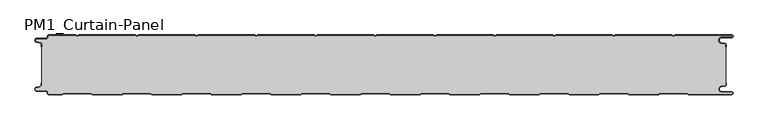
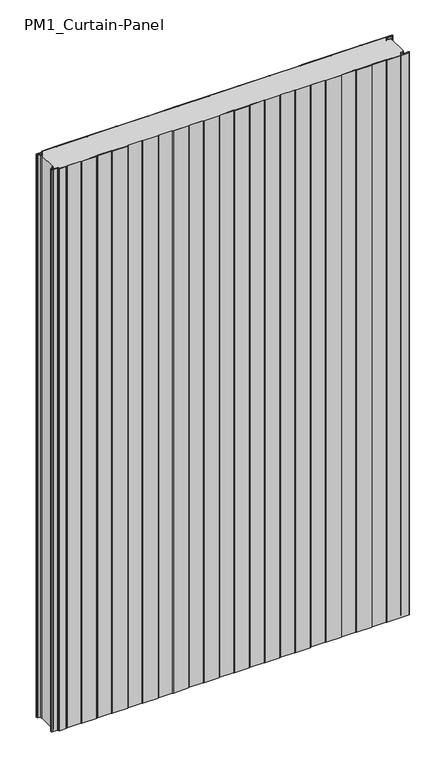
"""IFC4 building model written with IfcOpenShell, lengths in millimetres: plate geometry, PM1_Curtain-Panel : ACH_PM1_Stone-wool-Panel_100M."""

from ifc_helpers import new_model, si_unit, point, frame_2d, origin, origin_with_axes, place, context, project, spatial, polyline, circle_curve, trimmed, segment, composite_curve, outline, extrude, source, transform, mapped, element, save


def pm1_curtain_panel_f8caf6f3(model_context):
    return source(origin(), model_context, "Body", "SweptSolid", [
        extrude(outline(composite_curve([segment(trimmed(circle_curve(frame_2d((-577.0, -15.878557)), 2.0), [point((-575.0, -15.878557))], [point((-576.5500978, -13.9298169))], True, "CARTESIAN"), True, "CONTINUOUS"), segment(polyline([(-576.5500978, -13.9298169), (-582.7098239, -12.507732)]), True, "CONTINUOUS"), segment(trimmed(circle_curve(frame_2d((-581.9, -9.0)), 3.6), [point((-582.7098239, -12.507732))], [point((-581.9, -5.4))], False, "CARTESIAN"), True, "CONTINUOUS"), segment(polyline([(-581.9, -5.4), (-566.4, -5.4)]), True, "CONTINUOUS"), segment(trimmed(circle_curve(frame_2d((-566.4, -3.4)), 2.0), [point((-566.4, -5.4))], [point((-564.4, -3.4))], True, "CARTESIAN"), True, "CONTINUOUS"), segment(polyline([(-564.4, -3.4), (-564.4, -2.0)]), True, "CONTINUOUS"), segment(trimmed(circle_curve(frame_2d((-562.4, -2.0)), 2.0), [point((-564.4, -2.0))], [point((-562.4, 0.0))], False, "CARTESIAN"), True, "CONTINUOUS"), segment(polyline([(-562.4, 0.0), (-517.0999995, 0.0), (-514.4, -1.5588455), (-511.7000005, 0.0), (-417.0999995, 0.0), (-414.4, -1.5588455), (-411.7000005, 0.0), (-317.0999995, 0.0), (-314.4, -1.5588455), (-311.7000005, 0.0), (-217.0999995, 0.0), (-214.4, -1.5588455), (-211.7000005, 0.0), (-117.0999995, 0.0), (-114.4, -1.5588455), (-111.7000005, 0.0), (-17.0999995, 0.0), (-14.4, -1.5588455), (-11.7000005, 0.0), (82.9000005, 0.0), (85.6, -1.5588455), (88.2999995, 0.0), (182.9000005, 0.0), (185.6, -1.5588455), (188.2999995, 0.0), (282.9000005, 0.0), (285.6, -1.5588455), (288.2999995, 0.0), (382.9000005, 0.0), (385.6, -1.5588455), (388.2999995, 0.0), (482.9000005, 0.0), (485.6, -1.5588455), (488.2999995, 0.0), (583.1, 0.0)]), True, "CONTINUOUS"), segment(trimmed(circle_curve(frame_2d((583.1, -2.5)), 2.5), [point((583.1, 0.0))], [point((583.1, -5.0))], False, "CARTESIAN"), True, "CONTINUOUS"), segment(polyline([(583.1, -5.0), (566.1, -5.0)]), True, "CONTINUOUS"), segment(trimmed(circle_curve(frame_2d((566.1, -9.0)), 4.0), [point((566.1, -5.0))], [point((565.405407, -12.939231))], True, "CARTESIAN"), True, "CONTINUOUS"), segment(polyline([(565.405407, -12.939231), (571.8514855, -14.0758491)]), True, "CONTINUOUS"), segment(trimmed(circle_curve(frame_2d((571.4, -16.6363492)), 2.6), [point((571.8514855, -14.0758491))], [point((574.0, -16.6363492))], False, "CARTESIAN"), True, "CONTINUOUS"), segment(polyline([(574.0, -16.6363492), (574.0, -20.0), (573.2, -20.0), (573.2, -16.6363492)]), True, "CONTINUOUS"), segment(trimmed(circle_curve(frame_2d((571.4, -16.6363492)), 1.8), [point((573.2, -16.6363492))], [point((571.7125669, -14.8636953))], True, "CARTESIAN"), True, "CONTINUOUS"), segment(polyline([(571.7125669, -14.8636953), (565.2664884, -13.7270772)]), True, "CONTINUOUS"), segment(trimmed(circle_curve(frame_2d((566.1, -9.0)), 4.8), [point((565.2664884, -13.7270772))], [point((566.1, -4.2))], False, "CARTESIAN"), True, "CONTINUOUS"), segment(polyline([(566.1, -4.2), (583.1, -4.2)]), True, "CONTINUOUS"), segment(trimmed(circle_curve(frame_2d((583.1, -2.5)), 1.7), [point((583.1, -4.2))], [point((583.1, -0.8))], True, "CARTESIAN"), True, "CONTINUOUS"), segment(polyline([(583.1, -0.8), (488.5143588, -0.8), (485.6, -2.482606), (482.6856412, -0.8), (388.5143588, -0.8), (385.6, -2.482606), (382.6856412, -0.8), (288.5143588, -0.8), (285.6, -2.482606), (282.6856412, -0.8), (188.5143588, -0.8), (185.6, -2.482606), (182.6856412, -0.8), (88.5143588, -0.8), (85.6, -2.482606), (82.6856412, -0.8), (-11.4856412, -0.8), (-14.4, -2.482606), (-17.3143588, -0.8), (-111.4856412, -0.8), (-114.4, -2.482606), (-117.3143588, -0.8), (-211.4856412, -0.8), (-214.4, -2.482606), (-217.3143588, -0.8), (-311.4856412, -0.8), (-314.4, -2.482606), (-317.3143588, -0.8), (-411.4856412, -0.8), (-414.4, -2.482606), (-417.3143588, -0.8), (-511.4856412, -0.8), (-514.4, -2.482606), (-517.3143588, -0.8), (-562.4, -0.8)]), True, "CONTINUOUS"), segment(trimmed(circle_curve(frame_2d((-562.4, -2.0)), 1.2), [point((-562.4, -0.8))], [point((-563.6, -2.0))], True, "CARTESIAN"), True, "CONTINUOUS"), segment(polyline([(-563.6, -2.0), (-563.6, -3.4)]), True, "CONTINUOUS"), segment(trimmed(circle_curve(frame_2d((-566.4, -3.4)), 2.8), [point((-563.6, -3.4))], [point((-566.4, -6.2))], False, "CARTESIAN"), True, "CONTINUOUS"), segment(polyline([(-566.4, -6.2), (-581.9, -6.2)]), True, "CONTINUOUS"), segment(trimmed(circle_curve(frame_2d((-581.9, -9.0)), 2.8), [point((-581.9, -6.2))], [point((-582.529863, -11.7282362))], True, "CARTESIAN"), True, "CONTINUOUS"), segment(polyline([(-582.529863, -11.7282362), (-576.370137, -13.150321)]), True, "CONTINUOUS"), segment(trimmed(circle_curve(frame_2d((-577.0, -15.878557)), 2.8), [point((-576.370137, -13.150321))], [point((-574.2, -15.878557))], False, "CARTESIAN"), True, "CONTINUOUS"), segment(polyline([(-574.2, -15.878557), (-574.2, -20.0), (-575.0, -20.0), (-575.0, -15.878557)]), True, "CONTINUOUS")], self_intersect=False)), origin_with_axes(), (0.0, 0.0, 1.0), 1945.7507136),
        extrude(outline(composite_curve([segment(polyline([(-574.2, -84.121443), (-574.2, -15.8785573)]), True, "CONTINUOUS"), segment(trimmed(circle_curve(frame_2d((-577.0, -15.8785573)), 2.8), [point((-574.2, -15.8785573))], [point((-576.370137, -13.1503212))], True, "CARTESIAN"), True, "CONTINUOUS"), segment(polyline([(-576.370137, -13.1503212), (-582.5298631, -11.7282362)]), True, "CONTINUOUS"), segment(trimmed(circle_curve(frame_2d((-581.9, -9.0)), 2.8), [point((-582.5298631, -11.7282362))], [point((-581.9, -6.2))], False, "CARTESIAN"), True, "CONTINUOUS"), segment(polyline([(-581.9, -6.2), (-566.4000001, -6.2)]), True, "CONTINUOUS"), segment(trimmed(circle_curve(frame_2d((-566.4000001, -3.4)), 2.8), [point((-566.4000001, -6.2))], [point((-563.6000001, -3.4))], True, "CARTESIAN"), True, "CONTINUOUS"), segment(polyline([(-563.6000001, -3.4), (-563.6000001, -2.0)]), True, "CONTINUOUS"), segment(trimmed(circle_curve(frame_2d((-562.4000001, -2.0)), 1.2), [point((-563.6000001, -2.0))], [point((-562.4000001, -0.8))], False, "CARTESIAN"), True, "CONTINUOUS"), segment(polyline([(-562.4000001, -0.8), (-517.3143589, -0.8), (-514.4000001, -2.482606), (-511.4856412, -0.8), (-417.3143589, -0.8), (-414.4000001, -2.482606), (-411.4856412, -0.8), (-317.3143589, -0.8), (-314.4000001, -2.482606), (-311.4856412, -0.8), (-217.3143589, -0.8), (-214.4000001, -2.482606), (-211.4856412, -0.8), (-117.3143589, -0.8), (-114.4000001, -2.482606), (-111.4856412, -0.8), (-17.3143589, -0.8), (-14.4000001, -2.482606), (-11.4856412, -0.8), (82.6856411, -0.8), (85.5999999, -2.482606), (88.5143588, -0.8), (182.6856411, -0.8), (185.5999999, -2.482606), (188.5143588, -0.8), (282.6856411, -0.8), (285.5999999, -2.482606), (288.5143588, -0.8), (382.6856411, -0.8), (385.5999999, -2.482606), (388.5143588, -0.8), (482.6856411, -0.8), (485.6, -2.482606), (488.5143588, -0.8), (583.1, -0.8)]), True, "CONTINUOUS"), segment(trimmed(circle_curve(frame_2d((583.1, -2.5)), 1.7), [point((583.1, -0.8))], [point((583.1, -4.2))], False, "CARTESIAN"), True, "CONTINUOUS"), segment(polyline([(583.1, -4.2), (566.1, -4.2)]), True, "CONTINUOUS"), segment(trimmed(circle_curve(frame_2d((566.1, -9.0)), 4.8), [point((566.1, -4.2))], [point((565.2664883, -13.7270771))], True, "CARTESIAN"), True, "CONTINUOUS"), segment(polyline([(565.2664883, -13.7270771), (571.7125668, -14.8636953)]), True, "CONTINUOUS"), segment(trimmed(circle_curve(frame_2d((571.4, -16.6363492)), 1.8), [point((571.7125668, -14.8636953))], [point((573.2, -16.6363492))], False, "CARTESIAN"), True, "CONTINUOUS"), segment(polyline([(573.2, -16.6363492), (573.2, -83.363652)]), True, "CONTINUOUS"), segment(trimmed(circle_curve(frame_2d((571.4, -83.363652)), 1.8), [point((573.2, -83.363652))], [point((571.7125666, -85.1363059))], False, "CARTESIAN"), True, "CONTINUOUS"), segment(polyline([(571.7125666, -85.1363059), (565.266489, -86.272923)]), True, "CONTINUOUS"), segment(trimmed(circle_curve(frame_2d((566.1, -91.0000002)), 4.7999999), [point((565.266489, -86.272923))], [point((566.1, -95.8000001))], True, "CARTESIAN"), True, "CONTINUOUS"), segment(polyline([(566.1, -95.8000001), (583.1, -95.8000001)]), True, "CONTINUOUS"), segment(trimmed(circle_curve(frame_2d((583.1, -97.5)), 1.7), [point((583.1, -95.8000001))], [point((583.1, -99.2))], False, "CARTESIAN"), True, "CONTINUOUS"), segment(polyline([(583.1, -99.2), (510.8105122, -99.2), (508.2124346, -97.7), (462.9837184, -97.7), (460.3856408, -99.2), (410.8105122, -99.2), (408.2124346, -97.7), (362.9837184, -97.7), (360.3856408, -99.2), (310.8105122, -99.2), (308.2124346, -97.7), (262.9837184, -97.7), (260.3856408, -99.2), (210.8105122, -99.2), (208.2124346, -97.7), (162.9837184, -97.7), (160.3856408, -99.2), (110.8105122, -99.2), (108.2124346, -97.7), (62.9837184, -97.7), (60.3856408, -99.2), (10.8105122, -99.2), (8.2124346, -97.7), (-37.0162816, -97.7), (-39.6143592, -99.2), (-89.1894878, -99.2), (-91.7875654, -97.7), (-137.0162816, -97.7), (-139.6143592, -99.2), (-189.1894878, -99.2), (-191.7875654, -97.7), (-237.0162816, -97.7), (-239.6143592, -99.2), (-289.1894878, -99.2), (-291.7875654, -97.7), (-337.0162816, -97.7), (-339.6143592, -99.2), (-389.1894878, -99.2), (-391.7875654, -97.7), (-437.0162816, -97.7), (-439.6143592, -99.2), (-489.1894878, -99.2), (-491.7875654, -97.7), (-537.0162816, -97.7), (-539.6143592, -99.2), (-562.4, -99.2)]), True, "CONTINUOUS"), segment(trimmed(circle_curve(frame_2d((-562.4, -98.0)), 1.2), [point((-562.4, -99.2))], [point((-563.6, -98.0))], False, "CARTESIAN"), True, "CONTINUOUS"), segment(polyline([(-563.6, -98.0), (-563.6, -96.5999998)]), True, "CONTINUOUS"), segment(trimmed(circle_curve(frame_2d((-566.4, -96.5999998)), 2.8), [point((-563.6, -96.5999998))], [point((-566.4, -93.7999998))], True, "CARTESIAN"), True, "CONTINUOUS"), segment(polyline([(-566.4, -93.7999998), (-581.9, -93.7999998)]), True, "CONTINUOUS"), segment(trimmed(circle_curve(frame_2d((-581.9, -91.0)), 2.7999998), [point((-581.9, -93.7999998))], [point((-582.529863, -88.271764))], False, "CARTESIAN"), True, "CONTINUOUS"), segment(polyline([(-582.529863, -88.271764), (-576.370137, -86.8496792)]), True, "CONTINUOUS"), segment(trimmed(circle_curve(frame_2d((-577.0, -84.121443)), 2.8), [point((-576.370137, -86.8496792))], [point((-574.2, -84.121443))], True, "CARTESIAN"), True, "CONTINUOUS")], self_intersect=False)), origin_with_axes(), (0.0, 0.0, 1.0), 1945.7507136),
        extrude(outline(composite_curve([segment(trimmed(circle_curve(frame_2d((-562.4, -98.0)), 2.0), [point((-562.4, -100.0))], [point((-564.4, -98.0))], False, "CARTESIAN"), True, "CONTINUOUS"), segment(polyline([(-564.4, -98.0), (-564.4, -96.6)]), True, "CONTINUOUS"), segment(trimmed(circle_curve(frame_2d((-566.4, -96.6)), 2.0), [point((-564.4, -96.6))], [point((-566.4, -94.6))], True, "CARTESIAN"), True, "CONTINUOUS"), segment(polyline([(-566.4, -94.6), (-581.9, -94.6)]), True, "CONTINUOUS"), segment(trimmed(circle_curve(frame_2d((-581.9, -91.0)), 3.6), [point((-581.9, -94.6))], [point((-582.7098239, -87.4922678))], False, "CARTESIAN"), True, "CONTINUOUS"), segment(polyline([(-582.7098239, -87.4922678), (-576.5500979, -86.070183)]), True, "CONTINUOUS"), segment(trimmed(circle_curve(frame_2d((-577.0, -84.121443)), 2.0), [point((-576.5500979, -86.070183))], [point((-575.0, -84.121443))], True, "CARTESIAN"), True, "CONTINUOUS"), segment(polyline([(-575.0, -84.121443), (-575.0, -80.0), (-574.2, -80.0), (-574.2, -84.121443)]), True, "CONTINUOUS"), segment(trimmed(circle_curve(frame_2d((-577.0, -84.121443)), 2.8), [point((-574.2, -84.121443))], [point((-576.370137, -86.8496792))], False, "CARTESIAN"), True, "CONTINUOUS"), segment(polyline([(-576.370137, -86.8496792), (-582.529863, -88.271764)]), True, "CONTINUOUS"), segment(trimmed(circle_curve(frame_2d((-581.9, -91.0)), 2.8), [point((-582.529863, -88.271764))], [point((-581.9, -93.8))], True, "CARTESIAN"), True, "CONTINUOUS"), segment(polyline([(-581.9, -93.8), (-566.4, -93.8)]), True, "CONTINUOUS"), segment(trimmed(circle_curve(frame_2d((-566.4, -96.6)), 2.8), [point((-566.4, -93.8))], [point((-563.6, -96.6))], False, "CARTESIAN"), True, "CONTINUOUS"), segment(polyline([(-563.6, -96.6), (-563.6, -98.0)]), True, "CONTINUOUS"), segment(trimmed(circle_curve(frame_2d((-562.4, -98.0)), 1.2), [point((-563.6, -98.0))], [point((-562.4, -99.2))], True, "CARTESIAN"), True, "CONTINUOUS"), segment(polyline([(-562.4, -99.2), (-539.6143592, -99.2), (-537.0162816, -97.7), (-491.7875654, -97.7), (-489.1894878, -99.2), (-439.6143592, -99.2), (-437.0162816, -97.7), (-391.7875654, -97.7), (-389.1894878, -99.2), (-339.6143592, -99.2), (-337.0162816, -97.7), (-291.7875654, -97.7), (-289.1894878, -99.2), (-239.6143592, -99.2), (-237.0162816, -97.7), (-191.7875654, -97.7), (-189.1894878, -99.2), (-139.6143592, -99.2), (-137.0162816, -97.7), (-91.7875654, -97.7), (-89.1894878, -99.2), (-39.6143592, -99.2), (-37.0162816, -97.7), (8.2124346, -97.7), (10.8105122, -99.2), (60.3856408, -99.2), (62.9837184, -97.7), (108.2124346, -97.7), (110.8105122, -99.2), (160.3856408, -99.2), (162.9837184, -97.7), (208.2124346, -97.7), (210.8105122, -99.2), (260.3856408, -99.2), (262.9837184, -97.7), (308.2124346, -97.7), (310.8105122, -99.2), (360.3856408, -99.2), (362.9837184, -97.7), (408.2124346, -97.7), (410.8105122, -99.2), (460.3856408, -99.2), (462.9837184, -97.7), (508.2124346, -97.7), (510.8105122, -99.2), (583.1, -99.2)]), True, "CONTINUOUS"), segment(trimmed(circle_curve(frame_2d((583.1, -97.5)), 1.7), [point((583.1, -99.2))], [point((583.1, -95.8))], True, "CARTESIAN"), True, "CONTINUOUS"), segment(polyline([(583.1, -95.8), (566.1, -95.8)]), True, "CONTINUOUS"), segment(trimmed(circle_curve(frame_2d((566.1, -91.0)), 4.8), [point((566.1, -95.8))], [point((565.266489, -86.2729227))], False, "CARTESIAN"), True, "CONTINUOUS"), segment(polyline([(565.266489, -86.2729227), (571.7125666, -85.1363058)]), True, "CONTINUOUS"), segment(trimmed(circle_curve(frame_2d((571.4, -83.363652)), 1.8), [point((571.7125666, -85.1363058))], [point((573.2, -83.363652))], True, "CARTESIAN"), True, "CONTINUOUS"), segment(polyline([(573.2, -83.363652), (573.2, -80.0), (574.0, -80.0), (574.0, -83.363652)]), True, "CONTINUOUS"), segment(trimmed(circle_curve(frame_2d((571.4, -83.363652)), 2.6), [point((574.0, -83.363652))], [point((571.8514851, -85.9241522))], False, "CARTESIAN"), True, "CONTINUOUS"), segment(polyline([(571.8514851, -85.9241522), (565.4054075, -87.0607691)]), True, "CONTINUOUS"), segment(trimmed(circle_curve(frame_2d((566.1, -91.0)), 4.0), [point((565.4054075, -87.0607691))], [point((566.1, -95.0))], True, "CARTESIAN"), True, "CONTINUOUS"), segment(polyline([(566.1, -95.0), (583.1, -95.0)]), True, "CONTINUOUS"), segment(trimmed(circle_curve(frame_2d((583.1, -97.5)), 2.5), [point((583.1, -95.0))], [point((583.1, -100.0))], False, "CARTESIAN"), True, "CONTINUOUS"), segment(polyline([(583.1, -100.0), (510.5961529, -100.0), (507.9980753, -98.5), (463.1980777, -98.5), (460.6000001, -100.0), (410.5961529, -100.0), (407.9980753, -98.5), (363.1980777, -98.5), (360.6000001, -100.0), (310.5961529, -100.0), (307.9980753, -98.5), (263.1980777, -98.5), (260.6000001, -100.0), (210.5961529, -100.0), (207.9980753, -98.5), (163.1980777, -98.5), (160.6000001, -100.0), (110.5961529, -100.0), (107.9980753, -98.5), (63.1980777, -98.5), (60.6000001, -100.0), (10.5961529, -100.0), (7.9980753, -98.5), (-36.8019223, -98.5), (-39.3999999, -100.0), (-89.4038471, -100.0), (-92.0019247, -98.5), (-136.8019223, -98.5), (-139.3999999, -100.0), (-189.4038471, -100.0), (-192.0019247, -98.5), (-236.8019223, -98.5), (-239.3999999, -100.0), (-289.4038471, -100.0), (-292.0019247, -98.5), (-336.8019223, -98.5), (-339.3999999, -100.0), (-389.4038471, -100.0), (-392.0019247, -98.5), (-436.8019223, -98.5), (-439.3999999, -100.0), (-489.4038471, -100.0), (-492.0019247, -98.5), (-536.8019223, -98.5), (-539.3999999, -100.0), (-562.4, -100.0)]), True, "CONTINUOUS")], self_intersect=False)), origin_with_axes(), (0.0, 0.0, 1.0), 1945.7507136),
    ])


if __name__ == "__main__":
    model = new_model("IFC4")
    model_context = context("Model", 3, world=origin())
    ifc_project = project(units=[si_unit("LENGTHUNIT", "METRE", prefix="MILLI")], contexts=[model_context])
    site = spatial("IfcSite", under=ifc_project)
    building = spatial("IfcBuilding", under=site)
    placement = place(None, origin())
    pm1_curtain_panel_shape = pm1_curtain_panel_f8caf6f3(model_context)
    element("IfcPlate", 1, ObjectType="PM1_Curtain-Panel : ACH_PM1_Stone-wool-Panel_100M", at=placement, inside=building, context=model_context, shape_type="MappedRepresentation", body=[
        mapped(pm1_curtain_panel_shape, transform((0.0, 0.0, 0.0), x_axis=(1.0, 0.0, 0.0), y_axis=(0.0, 1.0, 0.0), z_axis=(0.0, 0.0, 1.0))),
    ])
    save(model, "model.ifc")
